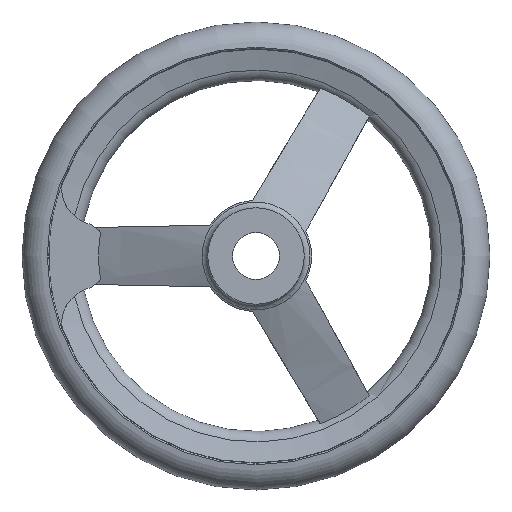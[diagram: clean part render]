
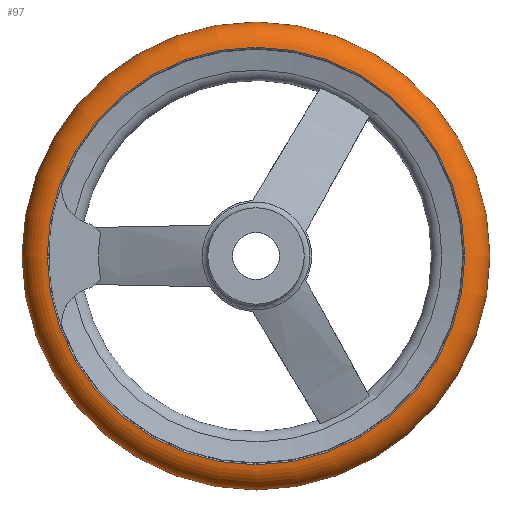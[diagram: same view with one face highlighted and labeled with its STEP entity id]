
A CAD part, left-side view. The second image highlights one B-rep face of the part: STEP entity #97.
In plain terms, the highlighted toroidal (fillet/blend) face has major radius 70.992 mm and minor radius 9.008 mm.
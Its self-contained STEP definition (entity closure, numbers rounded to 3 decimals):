
#97 = ADVANCED_FACE( '', ( #166, #167, #168 ), #169, .T. );
#166 = FACE_BOUND( '', #255, .T. );
#167 = FACE_OUTER_BOUND( '', #256, .T. );
#168 = FACE_OUTER_BOUND( '', #257, .T. );
#169 = TOROIDAL_SURFACE( '', #258, 70.992, 9.008 );
#255 = VERTEX_LOOP( '', #468 );
#256 = EDGE_LOOP( '', ( #469 ) );
#257 = EDGE_LOOP( '', ( #470 ) );
#258 = AXIS2_PLACEMENT_3D( '', #471, #472, #473 );
#468 = VERTEX_POINT( '', #633 );
#469 = ORIENTED_EDGE( '', *, *, #634, .T. );
#470 = ORIENTED_EDGE( '', *, *, #632, .F. );
#471 = CARTESIAN_POINT( '', ( 31., 0., 0. ) );
#472 = DIRECTION( '', ( -1., 0., 0. ) );
#473 = DIRECTION( '', ( 0., -1., 0. ) );
#632 = EDGE_CURVE( '', #771, #771, #772, .T. );
#633 = CARTESIAN_POINT( '', ( 31., -80., 0. ) );
#634 = EDGE_CURVE( '', #773, #773, #774, .T. );
#771 = VERTEX_POINT( '', #1294 );
#772 = CIRCLE( '', #1295, 71.375 );
#773 = VERTEX_POINT( '', #1296 );
#774 = CIRCLE( '', #1297, 71.375 );
#1294 = CARTESIAN_POINT( '', ( 22., -71.375, 0. ) );
#1295 = AXIS2_PLACEMENT_3D( '', #1408, #1409, #1410 );
#1296 = CARTESIAN_POINT( '', ( 40., -71.375, 0. ) );
#1297 = AXIS2_PLACEMENT_3D( '', #1411, #1412, #1413 );
#1408 = CARTESIAN_POINT( '', ( 22., 0., 0. ) );
#1409 = DIRECTION( '', ( -1., 0., 0. ) );
#1410 = DIRECTION( '', ( 0., -1., 0. ) );
#1411 = CARTESIAN_POINT( '', ( 40., 0., 0. ) );
#1412 = DIRECTION( '', ( -1., 0., 0. ) );
#1413 = DIRECTION( '', ( 0., -1., 0. ) );
